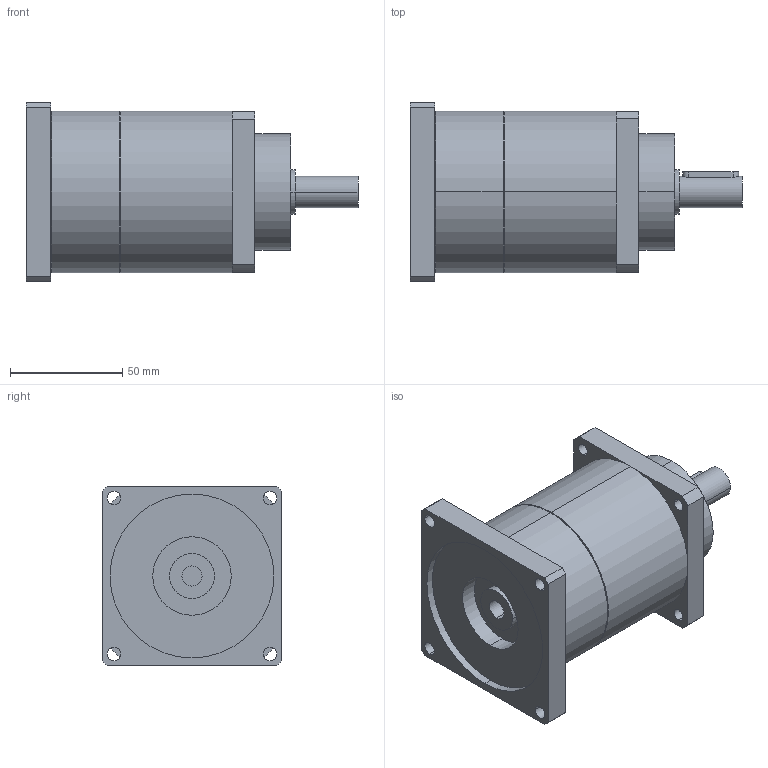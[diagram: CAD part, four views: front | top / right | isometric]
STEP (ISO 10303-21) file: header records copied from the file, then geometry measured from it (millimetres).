
FILE_DESCRIPTION(('CoCreate Modeling STEP Export'),'2;1');
FILE_NAME('GPT75_ig-9-12-16-20-25-28-35-40-50-70-100_14_B5T_9_P06.stp','2014-08-27T13:43:51',(''),(''),'CoCreate Modeling STEP processor for AP214 (Solid Model)','CoCreate Modeling 16.00C 25-Feb-2009 (C) Parametric Technology GmbH','');
FILE_SCHEMA(('AUTOMOTIVE_DESIGN { 1 0 10303 214 1 1 1 1 }'));
Length unit declared in the file: millimetre
Products named in the file (2): GPT75_ig-9-12-16-20-25-28-35-40-50-70-100_14_B5T_9_P06
Assembly tree (1 placements, depth 2):
  GPT75_ig-9-12-16-20-25-28-35-40-50-70-100_14_B5T_9_P06
    GPT75_ig-9-12-16-20-25-28-35-40-50-70-100_14_B5T_9_P06
Bounding box: 148 x 80 x 80 mm (x, y, z)
Volume: 465565.4 mm3; surface area: 48002.6 mm2
Topology: 1 solids, 1 shells, 77 faces, 194 edges, 129 vertices
Faces by surface type: cylinder 46, plane 27, cone 4
Entity records: 2484 total; most frequent: CARTESIAN_POINT 719, ORIENTED_EDGE 388, DIRECTION 320, EDGE_CURVE 194, VERTEX_POINT 129, AXIS2_PLACEMENT_3D 118, EDGE_LOOP 103, VECTOR 84
